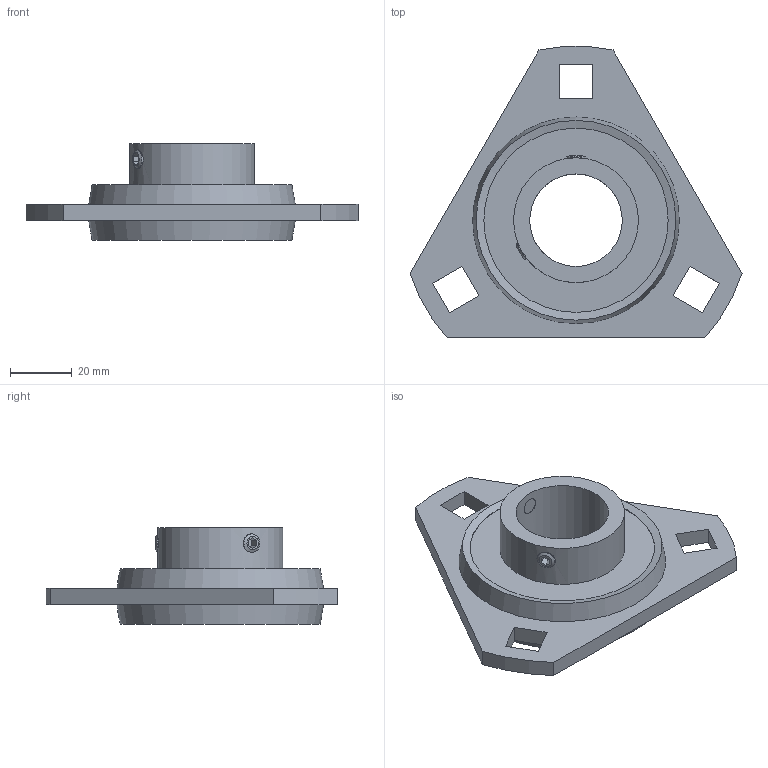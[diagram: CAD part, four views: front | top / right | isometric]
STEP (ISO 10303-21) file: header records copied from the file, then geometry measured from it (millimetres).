
FILE_DESCRIPTION((''),'2;1');
FILE_NAME('\\Ts-tgl068\j-cad-d-base\00.3DCADデータ作成フォルダ\02.フランジ形\BPFT\BPFT6.stp','2014-05-08T08:31:23',('btec_1106_2'),(''),'Autodesk Inventor 2012','Autodesk Inventor 2012','');
FILE_SCHEMA(('AUTOMOTIVE_DESIGN { 1 0 10303 214 1 1 1 1 }'));
Length unit declared in the file: millimetre
Products named in the file (3): BPFT; PFT6; シリーズB [番手=6 ul]
Assembly tree (2 placements, depth 2):
  BPFT
    PFT6
    シリーズB [番手=6 ul]
Bounding box: 107.63 x 94.36 x 31.3 mm (x, y, z)
Volume: 68520.7 mm3; surface area: 27283.3 mm2
Topology: 2 solids, 2 shells, 57 faces, 139 edges, 91 vertices
Faces by surface type: plane 38, cylinder 11, sphere 4, cone 4
Full cylindrical faces by diameter (mm): 6 x2, 30 x1, 40.5 x1
Entity records: 1748 total; most frequent: CARTESIAN_POINT 400, DIRECTION 260, ORIENTED_EDGE 236, EDGE_CURVE 118, AXIS2_PLACEMENT_3D 88, EDGE_LOOP 86, VERTEX_POINT 84, VECTOR 84
